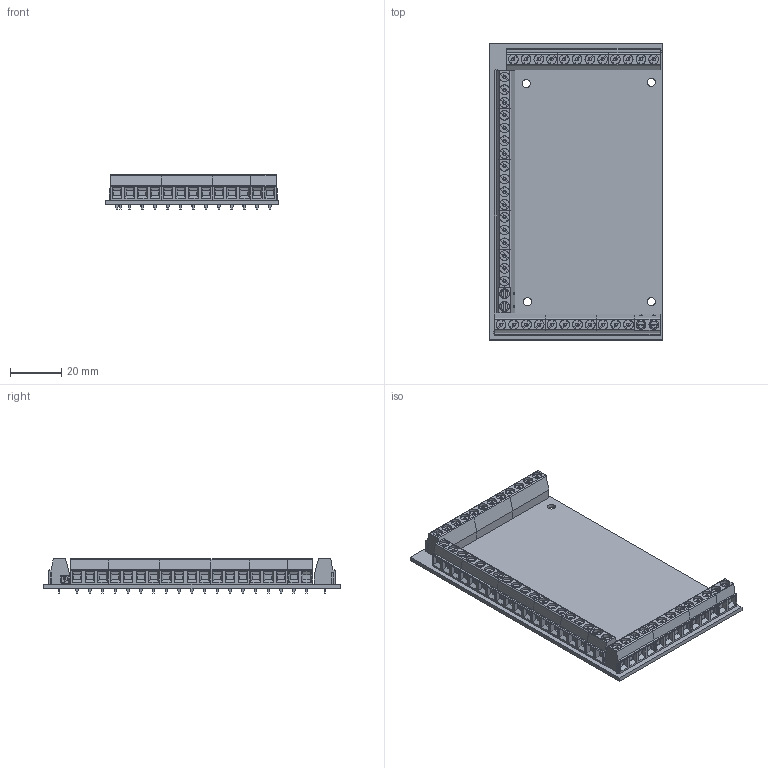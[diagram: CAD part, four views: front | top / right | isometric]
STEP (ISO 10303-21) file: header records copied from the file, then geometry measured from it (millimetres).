
FILE_DESCRIPTION(('KiCad electronic assembly'),'2;1');
FILE_NAME('Tapatan_Deckel_PCB.step','2024-11-15T16:20:25',('Pcbnew'),( 'Kicad'),'Open CASCADE STEP processor 7.8','KiCad to STEP converter' ,'Unknown');
FILE_SCHEMA(('AUTOMOTIVE_DESIGN { 1 0 10303 214 1 1 1 1 }'));
Length unit declared in the file: millimetre
Products named in the file (8): Tapatan_Deckel_PCB 1; 1729021; mkdsn_1.5-3; 1729034; mkdsn_1.5-4; 1729018; Tapatan_Deckel_PCB_PCB
Assembly tree (17 placements, depth 3):
  Tapatan_Deckel_PCB 1
    1729021  x4
      mkdsn_1.5-3
    1729034  x7
      mkdsn_1.5-4
    1729018  x2
      1729018
    Tapatan_Deckel_PCB_PCB
Bounding box: 68 x 116 x 13.5 mm (x, y, z)
Volume: 26461.7 mm3; surface area: 30529.4 mm2
Topology: 28 solids, 30 shells, 2963 faces, 7293 edges, 4606 vertices
Faces by surface type: plane 2258, cylinder 681, torus 24
Full cylindrical faces by diameter (mm): 1.3 x44, 3.2 x4
Entity records: 22067 total; most frequent: DIRECTION 3587, CARTESIAN_POINT 3574, ORIENTED_EDGE 3438, EDGE_CURVE 1719, LINE 1241, VECTOR 1241, AXIS2_PLACEMENT_3D 1173, VERTEX_POINT 1096
